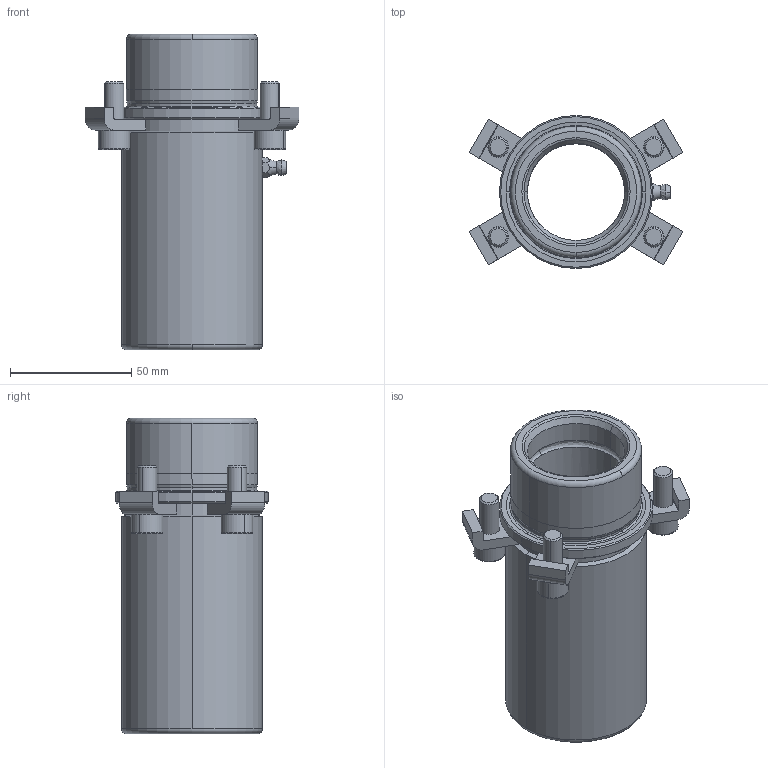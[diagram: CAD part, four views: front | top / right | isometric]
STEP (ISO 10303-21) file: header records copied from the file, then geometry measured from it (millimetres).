
FILE_DESCRIPTION((''),'2;1');
FILE_NAME('B10_040_100.stp','2008-11-06T08:56:12',(''),(''),'Mechanical Desktop 2009','Mechanical Desktop 2009',', , ');
FILE_SCHEMA(('CONFIG_CONTROL_DESIGN'));
Length unit declared in the file: millimetre
Products named in the file (2): Product; blmdl1
Assembly tree (1 placements, depth 2):
  Product
    blmdl1
Bounding box: 88.14 x 63 x 130 mm (x, y, z)
Volume: 181554.7 mm3; surface area: 53078.7 mm2
Topology: 10 solids, 10 shells, 210 faces, 529 edges, 348 vertices
Faces by surface type: plane 90, cylinder 60, cone 24, bspline 18, torus 18
Entity records: 7642 total; most frequent: CARTESIAN_POINT 2348, DIRECTION 1151, ORIENTED_EDGE 1050, EDGE_CURVE 525, AXIS2_PLACEMENT_3D 449, VERTEX_POINT 346, CIRCLE 255, VECTOR 253
